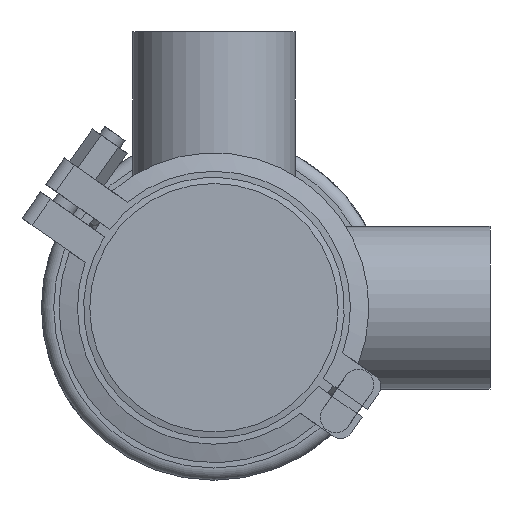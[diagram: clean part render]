
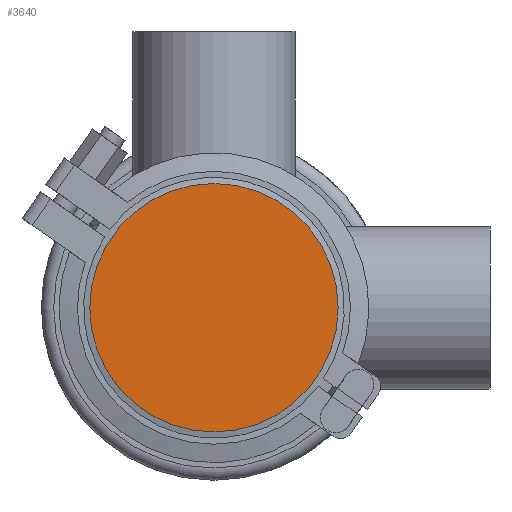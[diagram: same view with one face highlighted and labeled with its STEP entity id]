
A CAD part, front view. The second image highlights one B-rep face of the part: STEP entity #3640.
In plain terms, the highlighted planar face has unit normal (0, -1, 0).
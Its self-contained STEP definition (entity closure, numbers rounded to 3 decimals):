
#608 = AXIS2_PLACEMENT_3D ( 'NONE', #10830, #17329, #2751 ) ;
#1482 = EDGE_LOOP ( 'NONE', ( #6063 ) ) ;
#2751 = DIRECTION ( 'NONE',  ( 0., 0., -1. ) ) ;
#3640 = ADVANCED_FACE ( 'NONE', ( #18942 ), #4331, .T. ) ;
#4331 = PLANE ( 'NONE',  #608 ) ;
#5503 = CIRCLE ( 'NONE', #9950, 40.5 ) ;
#6063 = ORIENTED_EDGE ( 'NONE', *, *, #11523, .F. ) ;
#9950 = AXIS2_PLACEMENT_3D ( 'NONE', #13844, #13740, #13626 ) ;
#10830 = CARTESIAN_POINT ( 'NONE',  ( -40.5, 0., 0. ) ) ;
#11523 = EDGE_CURVE ( 'NONE', #18896, #18896, #5503, .T. ) ;
#13626 = DIRECTION ( 'NONE',  ( 0., 0., 1. ) ) ;
#13740 = DIRECTION ( 'NONE',  ( 0., 1., 0. ) ) ;
#13844 = CARTESIAN_POINT ( 'NONE',  ( 0., 0., 0. ) ) ;
#17329 = DIRECTION ( 'NONE',  ( 0., -1., 0. ) ) ;
#18896 = VERTEX_POINT ( 'NONE', #20191 ) ;
#18942 = FACE_OUTER_BOUND ( 'NONE', #1482, .T. ) ;
#20191 = CARTESIAN_POINT ( 'NONE',  ( 0., 0., 40.5 ) ) ;
